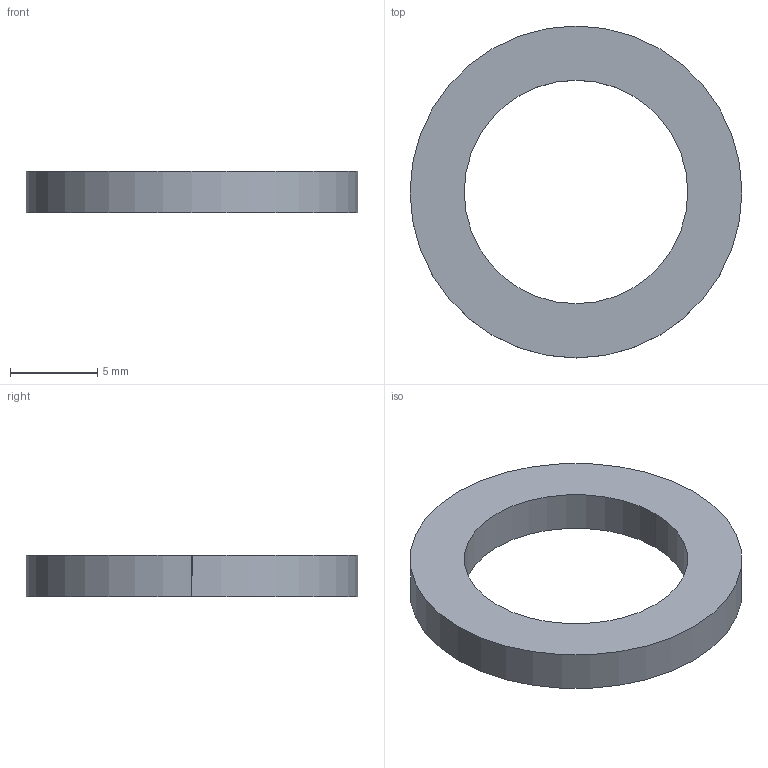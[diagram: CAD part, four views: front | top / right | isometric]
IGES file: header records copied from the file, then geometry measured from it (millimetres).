
Global section: file name: C:\Documents and Settings\Administrator\Desktop\Transfer Temp\washer-wn-1-2.igs; native system: AutoDesk Inventor R2.0 ; preprocessor: AutoDesk Inventor Iges Exporter R2.0; author: No Author specified; organization: No Organization specified; date: 20011226.234823; units: inch
Bounding box: 19.05 x 19.05 x 2.36 mm (x, y, z)
Surface area: 548.2 mm2 (no closed solid volume)
Topology: 0 solids, 0 shells, 6 faces, 24 edges, 24 vertices
Faces by surface type: revolution 4, bspline 2
